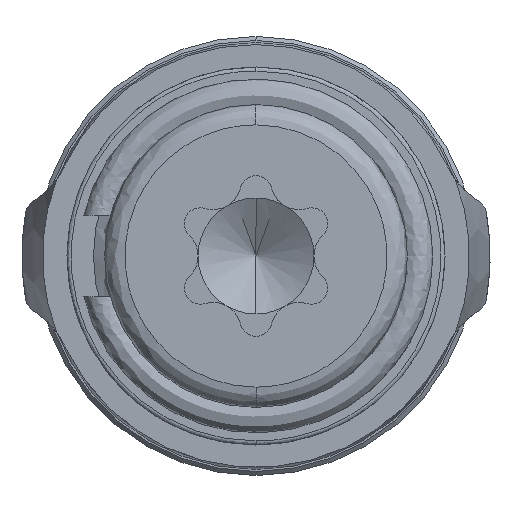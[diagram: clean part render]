
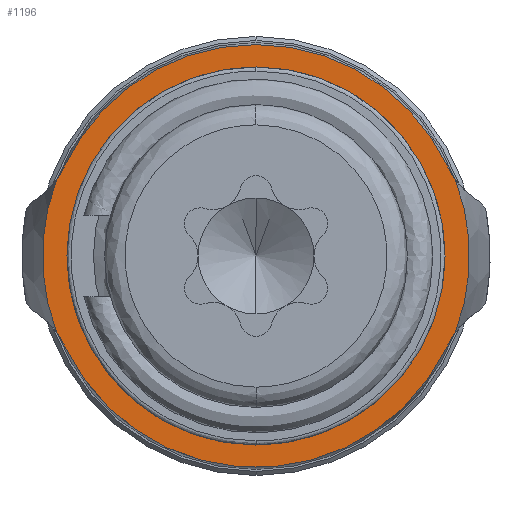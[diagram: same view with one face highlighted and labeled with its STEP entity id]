
A CAD part, front view. The second image highlights one B-rep face of the part: STEP entity #1196.
In plain terms, the highlighted planar face has unit normal (0, -1, 0).
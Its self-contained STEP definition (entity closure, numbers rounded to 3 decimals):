
#19 = DIRECTION ( 'NONE',  ( 0., 1., 0. ) ) ;
#35 = EDGE_CURVE ( 'NONE', #5005, #1945, #1898, .T. ) ;
#169 = CIRCLE ( 'NONE', #1835, 5.252 ) ;
#196 = CARTESIAN_POINT ( 'NONE',  ( 4.903, 10.05, -1.882 ) ) ;
#288 = DIRECTION ( 'NONE',  ( 0., 1., 0. ) ) ;
#315 = CIRCLE ( 'NONE', #2321, 5.2 ) ;
#368 = EDGE_CURVE ( 'NONE', #5005, #4340, #5634, .T. ) ;
#423 = DIRECTION ( 'NONE',  ( 0., 0., 1. ) ) ;
#441 = AXIS2_PLACEMENT_3D ( 'NONE', #5276, #5337, #5347 ) ;
#464 = AXIS2_PLACEMENT_3D ( 'NONE', #1116, #1134, #1157 ) ;
#514 = DIRECTION ( 'NONE',  ( 0., 0., 1. ) ) ;
#622 = CARTESIAN_POINT ( 'NONE',  ( 0., 10.05, 0. ) ) ;
#667 = EDGE_CURVE ( 'NONE', #3896, #4340, #5214, .T. ) ;
#870 = VERTEX_POINT ( 'NONE', #3712 ) ;
#953 = CIRCLE ( 'NONE', #5656, 2. ) ;
#1013 = AXIS2_PLACEMENT_3D ( 'NONE', #2370, #3920, #1344 ) ;
#1071 = CARTESIAN_POINT ( 'NONE',  ( 6.514, 10.05, 3.067 ) ) ;
#1116 = CARTESIAN_POINT ( 'NONE',  ( 6.514, 10.05, -3.067 ) ) ;
#1117 = CARTESIAN_POINT ( 'NONE',  ( 4.705, 10.05, -2.215 ) ) ;
#1134 = DIRECTION ( 'NONE',  ( 0., 1., 0. ) ) ;
#1157 = DIRECTION ( 'NONE',  ( 0., 0., 1. ) ) ;
#1196 = ADVANCED_FACE ( 'NONE', ( #5617, #5201 ), #5157, .T. ) ;
#1211 = AXIS2_PLACEMENT_3D ( 'NONE', #5984, #5933, #4510 ) ;
#1226 = CARTESIAN_POINT ( 'NONE',  ( -4.705, 10.05, -2.215 ) ) ;
#1344 = DIRECTION ( 'NONE',  ( 0., 0., 1. ) ) ;
#1436 = AXIS2_PLACEMENT_3D ( 'NONE', #1701, #288, #2756 ) ;
#1570 = CARTESIAN_POINT ( 'NONE',  ( 0., 10.05, -4.65 ) ) ;
#1701 = CARTESIAN_POINT ( 'NONE',  ( -6.514, 10.05, -3.067 ) ) ;
#1791 = ORIENTED_EDGE ( 'NONE', *, *, #3819, .T. ) ;
#1835 = AXIS2_PLACEMENT_3D ( 'NONE', #622, #19, #423 ) ;
#1898 = CIRCLE ( 'NONE', #464, 2. ) ;
#1945 = VERTEX_POINT ( 'NONE', #196 ) ;
#2149 = ORIENTED_EDGE ( 'NONE', *, *, #667, .T. ) ;
#2190 = CARTESIAN_POINT ( 'NONE',  ( 4.903, 10.05, 1.882 ) ) ;
#2321 = AXIS2_PLACEMENT_3D ( 'NONE', #3226, #4527, #4549 ) ;
#2331 = DIRECTION ( 'NONE',  ( 0., 0., 1. ) ) ;
#2339 = EDGE_CURVE ( 'NONE', #5088, #4395, #3924, .T. ) ;
#2341 = DIRECTION ( 'NONE',  ( 0., 1., 0. ) ) ;
#2344 = CIRCLE ( 'NONE', #3424, 5.2 ) ;
#2352 = CARTESIAN_POINT ( 'NONE',  ( 0., 10.05, 0. ) ) ;
#2370 = CARTESIAN_POINT ( 'NONE',  ( -6.514, 10.05, 3.067 ) ) ;
#2487 = CIRCLE ( 'NONE', #1211, 5.252 ) ;
#2499 = ORIENTED_EDGE ( 'NONE', *, *, #3731, .F. ) ;
#2647 = EDGE_LOOP ( 'NONE', ( #2499, #3722, #3626, #2149, #4943, #2742, #4240, #1791, #5784 ) ) ;
#2649 = VERTEX_POINT ( 'NONE', #2190 ) ;
#2742 = ORIENTED_EDGE ( 'NONE', *, *, #35, .T. ) ;
#2745 = DIRECTION ( 'NONE',  ( 0., 1., 0. ) ) ;
#2756 = DIRECTION ( 'NONE',  ( 0., 0., 1. ) ) ;
#2803 = CARTESIAN_POINT ( 'NONE',  ( -4.903, 10.05, -1.882 ) ) ;
#2850 = VERTEX_POINT ( 'NONE', #5747 ) ;
#2894 = AXIS2_PLACEMENT_3D ( 'NONE', #2352, #2341, #2331 ) ;
#3009 = CIRCLE ( 'NONE', #5443, 4.65 ) ;
#3011 = EDGE_LOOP ( 'NONE', ( #5185, #5295 ) ) ;
#3226 = CARTESIAN_POINT ( 'NONE',  ( 0., 10.05, 0. ) ) ;
#3228 = VERTEX_POINT ( 'NONE', #5856 ) ;
#3388 = VERTEX_POINT ( 'NONE', #3814 ) ;
#3424 = AXIS2_PLACEMENT_3D ( 'NONE', #3663, #5947, #514 ) ;
#3443 = EDGE_CURVE ( 'NONE', #1945, #2649, #2487, .T. ) ;
#3621 = AXIS2_PLACEMENT_3D ( 'NONE', #5020, #5013, #5008 ) ;
#3626 = ORIENTED_EDGE ( 'NONE', *, *, #4575, .F. ) ;
#3663 = CARTESIAN_POINT ( 'NONE',  ( 0., 10.05, 0. ) ) ;
#3712 = CARTESIAN_POINT ( 'NONE',  ( -4.903, 10.05, 1.882 ) ) ;
#3722 = ORIENTED_EDGE ( 'NONE', *, *, #3939, .T. ) ;
#3731 = EDGE_CURVE ( 'NONE', #2850, #3228, #2344, .T. ) ;
#3814 = CARTESIAN_POINT ( 'NONE',  ( 4.705, 10.05, 2.215 ) ) ;
#3819 = EDGE_CURVE ( 'NONE', #2649, #3388, #953, .T. ) ;
#3896 = VERTEX_POINT ( 'NONE', #2803 ) ;
#3920 = DIRECTION ( 'NONE',  ( 0., 1., 0. ) ) ;
#3924 = CIRCLE ( 'NONE', #441, 4.65 ) ;
#3939 = EDGE_CURVE ( 'NONE', #2850, #870, #4717, .T. ) ;
#4028 = DIRECTION ( 'NONE',  ( 0., 0., 1. ) ) ;
#4152 = EDGE_CURVE ( 'NONE', #4395, #5088, #3009, .T. ) ;
#4240 = ORIENTED_EDGE ( 'NONE', *, *, #3443, .T. ) ;
#4340 = VERTEX_POINT ( 'NONE', #1226 ) ;
#4395 = VERTEX_POINT ( 'NONE', #1570 ) ;
#4510 = DIRECTION ( 'NONE',  ( 0., 0., 1. ) ) ;
#4527 = DIRECTION ( 'NONE',  ( 0., 1., 0. ) ) ;
#4549 = DIRECTION ( 'NONE',  ( 0., 0., 1. ) ) ;
#4575 = EDGE_CURVE ( 'NONE', #3896, #870, #169, .T. ) ;
#4672 = EDGE_CURVE ( 'NONE', #3228, #3388, #315, .T. ) ;
#4717 = CIRCLE ( 'NONE', #1013, 2. ) ;
#4802 = CARTESIAN_POINT ( 'NONE',  ( 0., 10.05, 4.65 ) ) ;
#4943 = ORIENTED_EDGE ( 'NONE', *, *, #368, .F. ) ;
#5005 = VERTEX_POINT ( 'NONE', #1117 ) ;
#5008 = DIRECTION ( 'NONE',  ( 0., 0., -1. ) ) ;
#5013 = DIRECTION ( 'NONE',  ( 0., -1., 0. ) ) ;
#5020 = CARTESIAN_POINT ( 'NONE',  ( 0., 10.05, 0. ) ) ;
#5088 = VERTEX_POINT ( 'NONE', #4802 ) ;
#5157 = PLANE ( 'NONE',  #3621 ) ;
#5185 = ORIENTED_EDGE ( 'NONE', *, *, #4152, .F. ) ;
#5201 = FACE_BOUND ( 'NONE', #3011, .T. ) ;
#5214 = CIRCLE ( 'NONE', #1436, 2. ) ;
#5276 = CARTESIAN_POINT ( 'NONE',  ( 0., 10.05, 0. ) ) ;
#5295 = ORIENTED_EDGE ( 'NONE', *, *, #2339, .F. ) ;
#5337 = DIRECTION ( 'NONE',  ( 0., -1., 0. ) ) ;
#5347 = DIRECTION ( 'NONE',  ( 0., 0., -1. ) ) ;
#5443 = AXIS2_PLACEMENT_3D ( 'NONE', #6019, #5671, #5520 ) ;
#5520 = DIRECTION ( 'NONE',  ( 0., 0., -1. ) ) ;
#5617 = FACE_OUTER_BOUND ( 'NONE', #2647, .T. ) ;
#5634 = CIRCLE ( 'NONE', #2894, 5.2 ) ;
#5656 = AXIS2_PLACEMENT_3D ( 'NONE', #1071, #2745, #4028 ) ;
#5671 = DIRECTION ( 'NONE',  ( 0., -1., 0. ) ) ;
#5747 = CARTESIAN_POINT ( 'NONE',  ( -4.705, 10.05, 2.215 ) ) ;
#5784 = ORIENTED_EDGE ( 'NONE', *, *, #4672, .F. ) ;
#5856 = CARTESIAN_POINT ( 'NONE',  ( 0., 10.05, 5.2 ) ) ;
#5933 = DIRECTION ( 'NONE',  ( 0., -1., 0. ) ) ;
#5947 = DIRECTION ( 'NONE',  ( 0., 1., 0. ) ) ;
#5984 = CARTESIAN_POINT ( 'NONE',  ( 0., 10.05, 0. ) ) ;
#6019 = CARTESIAN_POINT ( 'NONE',  ( 0., 10.05, 0. ) ) ;
